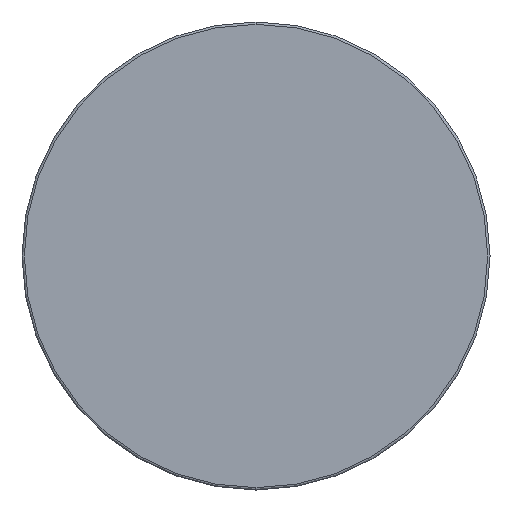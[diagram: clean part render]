
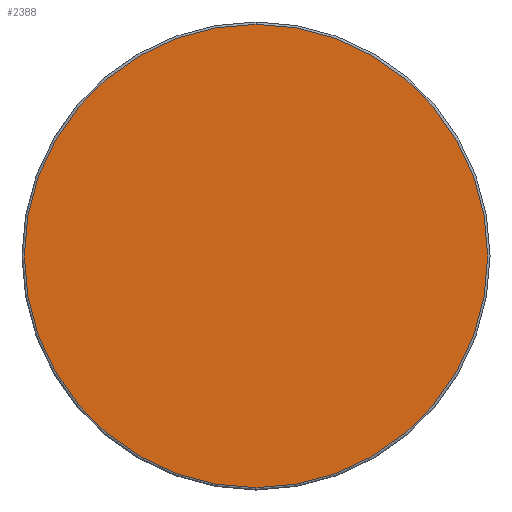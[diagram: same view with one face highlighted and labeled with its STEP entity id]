
A CAD part, front view. The second image highlights one B-rep face of the part: STEP entity #2388.
In plain terms, the highlighted planar face has unit normal (0, -1, 0) as drawn and (1, 0, 0) by its records, which use the part's own axes.
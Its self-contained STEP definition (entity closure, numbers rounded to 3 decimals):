
#2388 = ADVANCED_FACE ( 'NONE', ( #32604 ), #7148, .T. ) ;
#5065 = CIRCLE ( 'NONE', #50256, 14.85 ) ;
#7148 = PLANE ( 'NONE',  #49627 ) ;
#16587 = EDGE_LOOP ( 'NONE', ( #47370, #38735 ) ) ;
#19277 = CARTESIAN_POINT ( 'NONE',  ( 13.673, 15., 0. ) ) ;
#20324 = CARTESIAN_POINT ( 'NONE',  ( 13.673, 0., 0. ) ) ;
#20835 = VERTEX_POINT ( 'NONE', #48561 ) ;
#24365 = DIRECTION ( 'NONE',  ( 0., 0., -1. ) ) ;
#25712 = EDGE_CURVE ( 'NONE', #38644, #20835, #5065, .T. ) ;
#28297 = DIRECTION ( 'NONE',  ( 0., 0., -1. ) ) ;
#28641 = DIRECTION ( 'NONE',  ( 1., 0., 0. ) ) ;
#29425 = EDGE_CURVE ( 'NONE', #20835, #38644, #37978, .T. ) ;
#29961 = DIRECTION ( 'NONE',  ( 1., 0., 0. ) ) ;
#32604 = FACE_OUTER_BOUND ( 'NONE', #16587, .T. ) ;
#37637 = DIRECTION ( 'NONE',  ( 0., 0., -1. ) ) ;
#37978 = CIRCLE ( 'NONE', #55128, 14.85 ) ;
#38644 = VERTEX_POINT ( 'NONE', #46480 ) ;
#38735 = ORIENTED_EDGE ( 'NONE', *, *, #29425, .T. ) ;
#40516 = DIRECTION ( 'NONE',  ( 1., 0., 0. ) ) ;
#46480 = CARTESIAN_POINT ( 'NONE',  ( 13.673, 0., -14.85 ) ) ;
#47370 = ORIENTED_EDGE ( 'NONE', *, *, #25712, .T. ) ;
#48561 = CARTESIAN_POINT ( 'NONE',  ( 13.673, 0., 14.85 ) ) ;
#49627 = AXIS2_PLACEMENT_3D ( 'NONE', #19277, #28641, #24365 ) ;
#50256 = AXIS2_PLACEMENT_3D ( 'NONE', #53794, #40516, #28297 ) ;
#53794 = CARTESIAN_POINT ( 'NONE',  ( 13.673, 0., 0. ) ) ;
#55128 = AXIS2_PLACEMENT_3D ( 'NONE', #20324, #29961, #37637 ) ;
